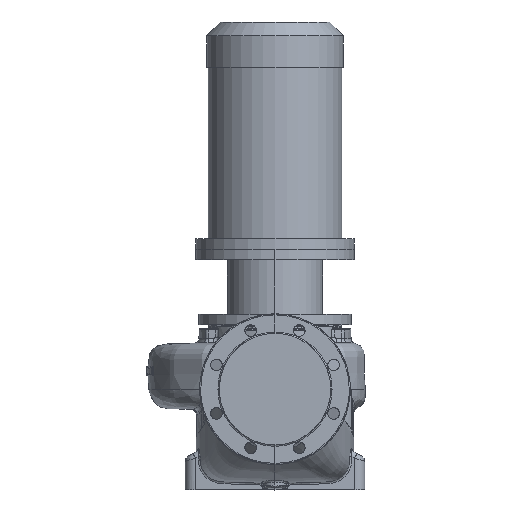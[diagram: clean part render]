
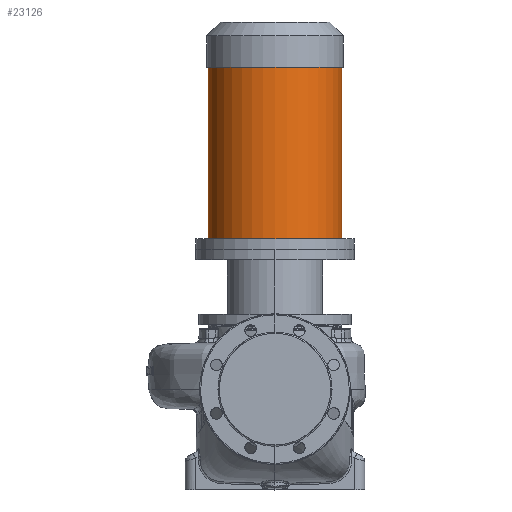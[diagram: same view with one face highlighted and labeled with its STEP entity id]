
A CAD part, top view. The second image highlights one B-rep face of the part: STEP entity #23126.
In plain terms, the highlighted cylindrical face has radius 126.5 mm (diameter 253 mm), a partial arc.
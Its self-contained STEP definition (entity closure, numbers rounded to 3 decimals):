
#2274 = CIRCLE ( 'NONE', #24779, 126.5 ) ;
#6164 = FACE_OUTER_BOUND ( 'NONE', #47536, .T. ) ;
#6952 = LINE ( 'NONE', #69308, #48719 ) ;
#7912 = CARTESIAN_POINT ( 'NONE',  ( 0., 265.3, 0. ) ) ;
#9936 = CYLINDRICAL_SURFACE ( 'NONE', #76868, 126.5 ) ;
#10770 = ORIENTED_EDGE ( 'NONE', *, *, #71711, .F. ) ;
#16319 = CARTESIAN_POINT ( 'NONE',  ( 0., 609.3, 0. ) ) ;
#20126 = DIRECTION ( 'NONE',  ( 0., -1., 0. ) ) ;
#20160 = EDGE_CURVE ( 'NONE', #51352, #28629, #78070, .T. ) ;
#20173 = DIRECTION ( 'NONE',  ( 0., -1., 0. ) ) ;
#21245 = CARTESIAN_POINT ( 'NONE',  ( 0., 285.3, 0. ) ) ;
#21824 = DIRECTION ( 'NONE',  ( 0., -1., 0. ) ) ;
#22017 = DIRECTION ( 'NONE',  ( 0., -1., 0. ) ) ;
#23126 = ADVANCED_FACE ( 'NONE', ( #6164 ), #9936, .T. ) ;
#24779 = AXIS2_PLACEMENT_3D ( 'NONE', #16319, #39652, #28222 ) ;
#28222 = DIRECTION ( 'NONE',  ( -1., 0., 0. ) ) ;
#28629 = VERTEX_POINT ( 'NONE', #36132 ) ;
#32950 = ORIENTED_EDGE ( 'NONE', *, *, #39183, .T. ) ;
#34199 = DIRECTION ( 'NONE',  ( -1., 0., 0. ) ) ;
#34513 = CARTESIAN_POINT ( 'NONE',  ( 126.5, 265.3, 0. ) ) ;
#36132 = CARTESIAN_POINT ( 'NONE',  ( -126.5, 285.3, 0. ) ) ;
#38061 = VERTEX_POINT ( 'NONE', #67013 ) ;
#39183 = EDGE_CURVE ( 'NONE', #38061, #28629, #6952, .T. ) ;
#39564 = VERTEX_POINT ( 'NONE', #57903 ) ;
#39652 = DIRECTION ( 'NONE',  ( 0., -1., 0. ) ) ;
#44696 = AXIS2_PLACEMENT_3D ( 'NONE', #21245, #22017, #34199 ) ;
#45944 = DIRECTION ( 'NONE',  ( -1., 0., 0. ) ) ;
#47536 = EDGE_LOOP ( 'NONE', ( #10770, #55313, #32950, #68300 ) ) ;
#48719 = VECTOR ( 'NONE', #20173, 1000. ) ;
#49030 = VECTOR ( 'NONE', #21824, 1000. ) ;
#51352 = VERTEX_POINT ( 'NONE', #57817 ) ;
#55313 = ORIENTED_EDGE ( 'NONE', *, *, #59950, .T. ) ;
#57817 = CARTESIAN_POINT ( 'NONE',  ( 126.5, 285.3, 0. ) ) ;
#57903 = CARTESIAN_POINT ( 'NONE',  ( 126.5, 609.3, 0. ) ) ;
#59950 = EDGE_CURVE ( 'NONE', #39564, #38061, #2274, .T. ) ;
#67013 = CARTESIAN_POINT ( 'NONE',  ( -126.5, 609.3, 0. ) ) ;
#68300 = ORIENTED_EDGE ( 'NONE', *, *, #20160, .F. ) ;
#69308 = CARTESIAN_POINT ( 'NONE',  ( -126.5, 265.3, 0. ) ) ;
#71711 = EDGE_CURVE ( 'NONE', #39564, #51352, #72843, .T. ) ;
#72843 = LINE ( 'NONE', #34513, #49030 ) ;
#76868 = AXIS2_PLACEMENT_3D ( 'NONE', #7912, #20126, #45944 ) ;
#78070 = CIRCLE ( 'NONE', #44696, 126.5 ) ;
